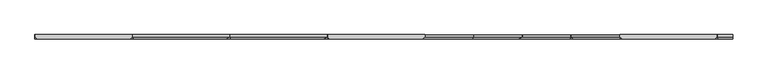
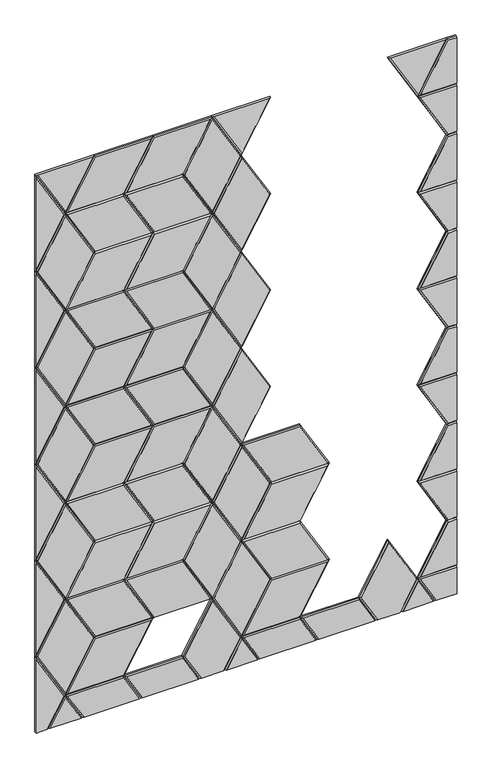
"""IFC4 building model written with IfcOpenShell, lengths in millimetres: proxy geometry, Wall_Cissu 9.3dm."""

from ifc_helpers import new_model, si_unit, origin, place, context, project, spatial, faceted_brep, source, transform, mapped, element, save


def generic_models_b4bbd041(model_context):
    return source(origin(), model_context, "Body", "Brep", [
        faceted_brep([(13658.7518258, 0.0, 380.3250218), (13798.4518258, 0.0, 138.357524), (13798.4518258, 6.0, 138.357524), (13658.7518258, 6.0, 380.3250218), (13658.7518258, -6.0, 368.3250218), (13791.5236226, -6.0, 138.357524), (13658.7518258, 6.0, 0.0), (13718.5710721, 6.0, 0.0), (13718.5710721, 0.0, 0.0), (13658.7518258, -6.0, 0.0), (13711.6428689, -6.0, 0.0)], [[[0, 1, 2, 3]], [[0, 4, 5, 1]], [[6, 3, 2, 7]], [[8, 7, 2, 1]], [[9, 10, 5, 4]], [[10, 8, 1, 5]], [[9, 6, 7, 8, 10]], [[0, 3, 6, 9, 4]]]),
        faceted_brep([(13658.7518258, 6.0, 2316.0650044), (13658.7518258, 6.0, 2800.0), (13798.4518258, 6.0, 2558.0325022), (13658.7518258, 0.0, 2800.0), (13798.4518258, 0.0, 2558.0325022), (13658.7518258, 0.0, 2316.0650044), (13658.7518258, -6.0, 2328.0650044), (13791.5236226, -6.0, 2558.0325022), (13658.7518258, -6.0, 2788.0)], [[[0, 1, 2]], [[3, 4, 2, 1]], [[4, 5, 0, 2]], [[6, 7, 8]], [[3, 8, 7, 4]], [[4, 7, 6, 5]], [[0, 5, 6, 8, 3, 1]]]),
        faceted_brep([(13658.7518258, 6.0, 1832.1300087), (13658.7518258, 6.0, 2316.0650044), (13798.4518258, 6.0, 2074.0975065), (13658.7518258, 0.0, 2316.0650044), (13798.4518258, 0.0, 2074.0975065), (13658.7518258, 0.0, 1832.1300087), (13658.7518258, -6.0, 1844.1300087), (13791.5236226, -6.0, 2074.0975065), (13658.7518258, -6.0, 2304.0650044)], [[[0, 1, 2]], [[3, 4, 2, 1]], [[4, 5, 0, 2]], [[6, 7, 8]], [[3, 8, 7, 4]], [[4, 7, 6, 5]], [[0, 5, 6, 8, 3, 1]]]),
        faceted_brep([(13658.7518258, 6.0, 1348.1950131), (13658.7518258, 6.0, 1832.1300087), (13798.4518258, 6.0, 1590.1625109), (13658.7518258, 0.0, 1832.1300087), (13798.4518258, 0.0, 1590.1625109), (13658.7518258, 0.0, 1348.1950131), (13658.7518258, -6.0, 1360.1950131), (13791.5236226, -6.0, 1590.1625109), (13658.7518258, -6.0, 1820.1300087)], [[[0, 1, 2]], [[3, 4, 2, 1]], [[4, 5, 0, 2]], [[6, 7, 8]], [[3, 8, 7, 4]], [[4, 7, 6, 5]], [[0, 5, 6, 8, 3, 1]]]),
        faceted_brep([(13658.7518258, 6.0, 864.2600175), (13658.7518258, 6.0, 1348.1950131), (13798.4518258, 6.0, 1106.2275153), (13658.7518258, 0.0, 1348.1950131), (13798.4518258, 0.0, 1106.2275153), (13658.7518258, 0.0, 864.2600175), (13658.7518258, -6.0, 876.2600175), (13791.5236226, -6.0, 1106.2275153), (13658.7518258, -6.0, 1336.1950131)], [[[0, 1, 2]], [[3, 4, 2, 1]], [[4, 5, 0, 2]], [[6, 7, 8]], [[3, 8, 7, 4]], [[4, 7, 6, 5]], [[0, 5, 6, 8, 3, 1]]]),
        faceted_brep([(13658.7518258, 6.0, 380.3250218), (13658.7518258, 6.0, 864.2600175), (13798.4518258, 6.0, 622.2925196), (13658.7518258, 0.0, 864.2600175), (13798.4518258, 0.0, 622.2925196), (13658.7518258, 0.0, 380.3250218), (13658.7518258, -6.0, 392.3250218), (13791.5236226, -6.0, 622.2925196), (13658.7518258, -6.0, 852.2600175)], [[[0, 1, 2]], [[3, 4, 2, 1]], [[4, 5, 0, 2]], [[6, 7, 8]], [[3, 8, 7, 4]], [[4, 7, 6, 5]], [[0, 5, 6, 8, 3, 1]]]),
        faceted_brep([(15658.7518258, 0.0, 138.357524), (15658.7518258, 6.0, 138.357524), (15474.8518258, 6.0, 138.357524), (15474.8518258, 0.0, 138.357524), (15658.7518258, -6.0, 132.357524), (15485.2441307, -6.0, 132.357524), (15658.7518258, 6.0, 0.0), (15554.7325795, 6.0, 0.0), (15554.7325795, 0.0, 0.0), (15658.7518258, -6.0, 0.0), (15561.6607828, -6.0, 0.0)], [[[0, 1, 2, 3]], [[4, 0, 3, 5]], [[6, 7, 2, 1]], [[8, 3, 2, 7]], [[9, 4, 5, 10]], [[10, 5, 3, 8]], [[6, 9, 10, 8, 7]], [[4, 9, 6, 1, 0]]]),
        faceted_brep([(15658.7518258, 6.0, 2800.0), (15658.7518258, 6.0, 2558.0325022), (15474.8518258, 6.0, 2558.0325022), (15614.5518258, 6.0, 2800.0), (15658.7518258, 0.0, 2558.0325022), (15474.8518258, 0.0, 2558.0325022), (15614.5518258, 0.0, 2800.0), (15658.7518258, 0.0, 2800.0), (15658.7518258, -6.0, 2794.0), (15618.0159274, -6.0, 2794.0), (15485.2441307, -6.0, 2564.0325022), (15658.7518258, -6.0, 2564.0325022)], [[[0, 1, 2, 3]], [[4, 5, 2, 1]], [[5, 6, 3, 2]], [[0, 3, 6, 7]], [[8, 9, 10, 11]], [[11, 10, 5, 4]], [[5, 10, 9, 6]], [[7, 6, 9, 8]], [[8, 11, 4, 1, 0, 7]]]),
        faceted_brep([(15658.7518258, 6.0, 1348.1950131), (15614.5518258, 6.0, 1348.1950131), (15474.8518258, 6.0, 1590.1625109), (15658.7518258, 6.0, 1590.1625109), (15658.7518258, 0.0, 1348.1950131), (15614.5518258, 0.0, 1348.1950131), (15658.7518258, 0.0, 1590.1625109), (15474.8518258, 0.0, 1590.1625109), (15658.7518258, -6.0, 1354.1950131), (15658.7518258, -6.0, 1584.1625109), (15485.2441307, -6.0, 1584.1625109), (15618.0159274, -6.0, 1354.1950131)], [[[0, 1, 2, 3]], [[0, 4, 5, 1]], [[6, 3, 2, 7]], [[7, 2, 1, 5]], [[8, 9, 10, 11]], [[4, 8, 11, 5]], [[9, 6, 7, 10]], [[7, 5, 11, 10]], [[0, 3, 6, 9, 8, 4]]]),
        faceted_brep([(15658.7518258, 6.0, 2316.0650044), (15658.7518258, 6.0, 2074.0975065), (15474.8518258, 6.0, 2074.0975065), (15614.5518258, 6.0, 2316.0650044), (15658.7518258, 0.0, 2074.0975065), (15474.8518258, 0.0, 2074.0975065), (15614.5518258, 0.0, 2316.0650044), (15658.7518258, 0.0, 2316.0650044), (15658.7518258, -6.0, 2310.0650044), (15618.0159274, -6.0, 2310.0650044), (15485.2441307, -6.0, 2080.0975065), (15658.7518258, -6.0, 2080.0975065)], [[[0, 1, 2, 3]], [[4, 5, 2, 1]], [[5, 6, 3, 2]], [[0, 3, 6, 7]], [[8, 9, 10, 11]], [[11, 10, 5, 4]], [[5, 10, 9, 6]], [[7, 6, 9, 8]], [[0, 7, 8, 11, 4, 1]]]),
        faceted_brep([(15658.7518258, 6.0, 2316.0650044), (15614.5518258, 6.0, 2316.0650044), (15474.8518258, 6.0, 2558.0325022), (15658.7518258, 6.0, 2558.0325022), (15658.7518258, 0.0, 2558.0325022), (15474.8518258, 0.0, 2558.0325022), (15614.5518258, 0.0, 2316.0650044), (15658.7518258, 0.0, 2316.0650044), (15658.7518258, -6.0, 2322.0650044), (15658.7518258, -6.0, 2552.0325022), (15485.2441307, -6.0, 2552.0325022), (15618.0159274, -6.0, 2322.0650044)], [[[0, 1, 2, 3]], [[4, 3, 2, 5]], [[5, 2, 1, 6]], [[0, 7, 6, 1]], [[8, 9, 10, 11]], [[9, 4, 5, 10]], [[5, 6, 11, 10]], [[7, 8, 11, 6]], [[0, 3, 4, 9, 8, 7]]]),
        faceted_brep([(15658.7518258, 6.0, 1832.1300087), (15658.7518258, 6.0, 1590.1625109), (15474.8518258, 6.0, 1590.1625109), (15614.5518258, 6.0, 1832.1300087), (15658.7518258, 0.0, 1590.1625109), (15474.8518258, 0.0, 1590.1625109), (15614.5518258, 0.0, 1832.1300087), (15658.7518258, 0.0, 1832.1300087), (15658.7518258, -6.0, 1826.1300087), (15618.0159274, -6.0, 1826.1300087), (15485.2441307, -6.0, 1596.1625109), (15658.7518258, -6.0, 1596.1625109)], [[[0, 1, 2, 3]], [[4, 5, 2, 1]], [[5, 6, 3, 2]], [[0, 3, 6, 7]], [[8, 9, 10, 11]], [[11, 10, 5, 4]], [[5, 10, 9, 6]], [[7, 6, 9, 8]], [[0, 7, 8, 11, 4, 1]]]),
        faceted_brep([(15658.7518258, 6.0, 1832.1300087), (15614.5518258, 6.0, 1832.1300087), (15474.8518258, 6.0, 2074.0975065), (15658.7518258, 6.0, 2074.0975065), (15658.7518258, 0.0, 2074.0975065), (15474.8518258, 0.0, 2074.0975065), (15614.5518258, 0.0, 1832.1300087), (15658.7518258, 0.0, 1832.1300087), (15658.7518258, -6.0, 1838.1300087), (15658.7518258, -6.0, 2068.0975065), (15485.2441307, -6.0, 2068.0975065), (15618.0159274, -6.0, 1838.1300087)], [[[0, 1, 2, 3]], [[4, 3, 2, 5]], [[5, 2, 1, 6]], [[0, 7, 6, 1]], [[8, 9, 10, 11]], [[9, 4, 5, 10]], [[5, 6, 11, 10]], [[7, 8, 11, 6]], [[0, 3, 4, 9, 8, 7]]]),
        faceted_brep([(15658.7518258, 6.0, 1348.1950131), (15658.7518258, 6.0, 1106.2275153), (15474.8518258, 6.0, 1106.2275153), (15614.5518258, 6.0, 1348.1950131), (15658.7518258, 0.0, 1106.2275153), (15474.8518258, 0.0, 1106.2275153), (15614.5518258, 0.0, 1348.1950131), (15658.7518258, 0.0, 1348.1950131), (15658.7518258, -6.0, 1342.1950131), (15618.0159274, -6.0, 1342.1950131), (15485.2441307, -6.0, 1112.2275153), (15658.7518258, -6.0, 1112.2275153)], [[[0, 1, 2, 3]], [[4, 5, 2, 1]], [[5, 6, 3, 2]], [[0, 3, 6, 7]], [[8, 9, 10, 11]], [[11, 10, 5, 4]], [[5, 10, 9, 6]], [[7, 6, 9, 8]], [[0, 7, 8, 11, 4, 1]]]),
        faceted_brep([(15658.7518258, 6.0, 864.2600175), (15658.7518258, 6.0, 622.2925196), (15474.8518258, 6.0, 622.2925196), (15614.5518258, 6.0, 864.2600175), (15658.7518258, 0.0, 622.2925196), (15474.8518258, 0.0, 622.2925196), (15614.5518258, 0.0, 864.2600175), (15658.7518258, 0.0, 864.2600175), (15658.7518258, -6.0, 858.2600175), (15618.0159274, -6.0, 858.2600175), (15485.2441307, -6.0, 628.2925196), (15658.7518258, -6.0, 628.2925196)], [[[0, 1, 2, 3]], [[4, 5, 2, 1]], [[5, 6, 3, 2]], [[0, 3, 6, 7]], [[8, 9, 10, 11]], [[11, 10, 5, 4]], [[5, 10, 9, 6]], [[7, 6, 9, 8]], [[0, 7, 8, 11, 4, 1]]]),
        faceted_brep([(15658.7518258, 6.0, 380.3250218), (15658.7518258, 6.0, 138.357524), (15474.8518258, 6.0, 138.357524), (15614.5518258, 6.0, 380.3250218), (15658.7518258, 0.0, 138.357524), (15474.8518258, 0.0, 138.357524), (15614.5518258, 0.0, 380.3250218), (15658.7518258, 0.0, 380.3250218), (15658.7518258, -6.0, 374.3250218), (15618.0159274, -6.0, 374.3250218), (15485.2441307, -6.0, 144.357524), (15658.7518258, -6.0, 144.357524)], [[[0, 1, 2, 3]], [[4, 5, 2, 1]], [[5, 6, 3, 2]], [[0, 3, 6, 7]], [[8, 9, 10, 11]], [[11, 10, 5, 4]], [[5, 10, 9, 6]], [[7, 6, 9, 8]], [[0, 7, 8, 11, 4, 1]]]),
        faceted_brep([(15658.7518258, 6.0, 380.3250218), (15614.5518258, 6.0, 380.3250218), (15474.8518258, 6.0, 622.2925196), (15658.7518258, 6.0, 622.2925196), (15658.7518258, 0.0, 622.2925196), (15474.8518258, 0.0, 622.2925196), (15614.5518258, 0.0, 380.3250218), (15658.7518258, 0.0, 380.3250218), (15658.7518258, -6.0, 386.3250218), (15658.7518258, -6.0, 616.2925196), (15485.2441307, -6.0, 616.2925196), (15618.0159274, -6.0, 386.3250218)], [[[0, 1, 2, 3]], [[4, 3, 2, 5]], [[5, 2, 1, 6]], [[0, 7, 6, 1]], [[8, 9, 10, 11]], [[9, 4, 5, 10]], [[5, 6, 11, 10]], [[7, 8, 11, 6]], [[0, 3, 4, 9, 8, 7]]]),
        faceted_brep([(15658.7518258, 6.0, 864.2600175), (15614.5518258, 6.0, 864.2600175), (15474.8518258, 6.0, 1106.2275153), (15658.7518258, 6.0, 1106.2275153), (15658.7518258, 0.0, 1106.2275153), (15474.8518258, 0.0, 1106.2275153), (15614.5518258, 0.0, 864.2600175), (15658.7518258, 0.0, 864.2600175), (15658.7518258, -6.0, 870.2600175), (15658.7518258, -6.0, 1100.2275153), (15485.2441307, -6.0, 1100.2275153), (15618.0159274, -6.0, 870.2600175)], [[[0, 1, 2, 3]], [[4, 3, 2, 5]], [[5, 2, 1, 6]], [[0, 7, 6, 1]], [[8, 9, 10, 11]], [[9, 4, 5, 10]], [[5, 6, 11, 10]], [[7, 8, 11, 6]], [[0, 3, 4, 9, 8, 7]]]),
        faceted_brep([(13718.5710721, 6.0, 0.0), (13798.4518258, 6.0, 138.357524), (13878.3325795, 6.0, 0.0), (13718.5710721, 0.0, 0.0), (13798.4518258, 0.0, 138.357524), (13878.3325795, 0.0, 0.0), (13725.4992753, -6.0, 0.0), (13871.4043763, -6.0, 0.0), (13798.4518258, -6.0, 126.357524)], [[[0, 1, 2]], [[0, 3, 4, 1]], [[5, 2, 1, 4]], [[6, 7, 8]], [[3, 6, 8, 4]], [[7, 5, 4, 8]], [[0, 2, 5, 7, 6, 3]]]),
        faceted_brep([(14077.8518258, 0.0, 138.357524), (14077.8518258, 6.0, 138.357524), (13798.4518258, 6.0, 138.357524), (13798.4518258, 0.0, 138.357524), (13808.8441307, -6.0, 132.357524), (14074.3877242, -6.0, 132.357524), (14157.7325795, 6.0, 0.0), (13878.3325795, 6.0, 0.0), (13878.3325795, 0.0, 0.0), (14157.7325795, 0.0, 0.0), (14150.8043763, -6.0, 0.0), (13885.2607828, -6.0, 0.0)], [[[0, 1, 2, 3]], [[0, 3, 4, 5]], [[6, 7, 2, 1]], [[8, 3, 2, 7]], [[6, 1, 0, 9]], [[10, 5, 4, 11]], [[11, 4, 3, 8]], [[9, 0, 5, 10]], [[6, 9, 10, 11, 8, 7]]]),
        faceted_brep([(14357.2518258, 0.0, 138.357524), (14496.9518258, 0.0, 380.3250218), (14496.9518258, 6.0, 380.3250218), (14357.2518258, 6.0, 138.357524), (14636.6518258, 0.0, 138.357524), (14636.6518258, 6.0, 138.357524), (14364.180029, -6.0, 138.357524), (14496.9518258, -6.0, 368.3250218), (14629.7236226, -6.0, 138.357524), (14437.1325795, 6.0, 0.0), (14556.7710721, 6.0, 0.0), (14556.7710721, 0.0, 0.0), (14437.1325795, 0.0, 0.0), (14444.0607828, -6.0, 0.0), (14549.8428689, -6.0, 0.0)], [[[0, 1, 2, 3]], [[1, 4, 5, 2]], [[0, 6, 7, 1]], [[1, 7, 8, 4]], [[9, 3, 2, 5, 10]], [[11, 10, 5, 4]], [[9, 12, 0, 3]], [[13, 14, 8, 7, 6]], [[14, 11, 4, 8]], [[12, 13, 6, 0]], [[9, 10, 11, 14, 13, 12]]]),
        faceted_brep([(14357.2518258, 0.0, 138.357524), (14357.2518258, 6.0, 138.357524), (14077.8518258, 6.0, 138.357524), (14077.8518258, 0.0, 138.357524), (14088.2441307, -6.0, 132.357524), (14353.7877242, -6.0, 132.357524), (14437.1325795, 6.0, 0.0), (14157.7325795, 6.0, 0.0), (14437.1325795, 0.0, 0.0), (14157.7325795, 0.0, 0.0), (14430.2043763, -6.0, 0.0), (14164.6607828, -6.0, 0.0)], [[[0, 1, 2, 3]], [[0, 3, 4, 5]], [[6, 7, 2, 1]], [[6, 1, 0, 8]], [[9, 3, 2, 7]], [[10, 5, 4, 11]], [[8, 0, 5, 10]], [[11, 4, 3, 9]], [[6, 8, 10, 11, 9, 7]]]),
        faceted_brep([(14556.7710721, 6.0, 0.0), (14636.6518258, 6.0, 138.357524), (14716.5325795, 6.0, 0.0), (14556.7710721, 0.0, 0.0), (14636.6518258, 0.0, 138.357524), (14716.5325795, 0.0, 0.0), (14563.6992753, -6.0, 0.0), (14709.6043763, -6.0, 0.0), (14636.6518258, -6.0, 126.357524)], [[[0, 1, 2]], [[0, 3, 4, 1]], [[5, 2, 1, 4]], [[6, 7, 8]], [[3, 6, 8, 4]], [[7, 5, 4, 8]], [[0, 2, 5, 7, 6, 3]]]),
        faceted_brep([(14916.0518258, 0.0, 138.357524), (14916.0518258, 6.0, 138.357524), (14636.6518258, 6.0, 138.357524), (14636.6518258, 0.0, 138.357524), (14647.0441307, -6.0, 132.357524), (14912.5877242, -6.0, 132.357524), (14995.9325795, 6.0, 0.0), (14716.5325795, 6.0, 0.0), (14716.5325795, 0.0, 0.0), (14995.9325795, 0.0, 0.0), (14989.0043763, -6.0, 0.0), (14723.4607828, -6.0, 0.0)], [[[0, 1, 2, 3]], [[0, 3, 4, 5]], [[6, 7, 2, 1]], [[8, 3, 2, 7]], [[6, 1, 0, 9]], [[10, 5, 4, 11]], [[11, 4, 3, 8]], [[9, 0, 5, 10]], [[6, 9, 10, 11, 8, 7]]]),
        faceted_brep([(15195.4518258, 0.0, 138.357524), (15335.1518258, 0.0, 380.3250218), (15335.1518258, 6.0, 380.3250218), (15195.4518258, 6.0, 138.357524), (15474.8518258, 0.0, 138.357524), (15474.8518258, 6.0, 138.357524), (15202.380029, -6.0, 138.357524), (15335.1518258, -6.0, 368.3250218), (15467.9236226, -6.0, 138.357524), (15275.3325795, 6.0, 0.0), (15394.9710721, 6.0, 0.0), (15394.9710721, 0.0, 0.0), (15275.3325795, 0.0, 0.0), (15282.2607828, -6.0, 0.0), (15388.0428689, -6.0, 0.0)], [[[0, 1, 2, 3]], [[1, 4, 5, 2]], [[0, 6, 7, 1]], [[1, 7, 8, 4]], [[9, 3, 2, 5, 10]], [[11, 10, 5, 4]], [[9, 12, 0, 3]], [[13, 14, 8, 7, 6]], [[14, 11, 4, 8]], [[12, 13, 6, 0]], [[9, 10, 11, 14, 13, 12]]]),
        faceted_brep([(15195.4518258, 0.0, 138.357524), (15195.4518258, 6.0, 138.357524), (14916.0518258, 6.0, 138.357524), (14916.0518258, 0.0, 138.357524), (14926.4441307, -6.0, 132.357524), (15191.9877242, -6.0, 132.357524), (15275.3325795, 6.0, 0.0), (14995.9325795, 6.0, 0.0), (15275.3325795, 0.0, 0.0), (14995.9325795, 0.0, 0.0), (15268.4043763, -6.0, 0.0), (15002.8607828, -6.0, 0.0)], [[[0, 1, 2, 3]], [[0, 3, 4, 5]], [[6, 7, 2, 1]], [[6, 1, 0, 8]], [[9, 3, 2, 7]], [[10, 5, 4, 11]], [[8, 0, 5, 10]], [[11, 4, 3, 9]], [[6, 8, 10, 11, 9, 7]]]),
        faceted_brep([(15394.9710721, 6.0, 0.0), (15474.8518258, 6.0, 138.357524), (15554.7325795, 6.0, 0.0), (15394.9710721, 0.0, 0.0), (15474.8518258, 0.0, 138.357524), (15554.7325795, 0.0, 0.0), (15401.8992753, -6.0, 0.0), (15547.8043763, -6.0, 0.0), (15474.8518258, -6.0, 126.357524)], [[[0, 1, 2]], [[0, 3, 4, 1]], [[5, 2, 1, 4]], [[6, 7, 8]], [[3, 6, 8, 4]], [[7, 5, 4, 8]], [[0, 2, 5, 7, 6, 3]]]),
        faceted_brep([(13938.1518258, 0.0, 2800.0), (13798.4518258, 0.0, 2558.0325022), (13798.4518258, 6.0, 2558.0325022), (13938.1518258, 6.0, 2800.0), (13658.7518258, 0.0, 2800.0), (13658.7518258, 6.0, 2800.0), (13931.2236226, -6.0, 2800.0), (13798.4518258, -6.0, 2570.0325022), (13665.680029, -6.0, 2800.0)], [[[0, 1, 2, 3]], [[1, 4, 5, 2]], [[0, 6, 7, 1]], [[1, 7, 8, 4]], [[3, 2, 5]], [[6, 8, 7]], [[3, 5, 4, 8, 6, 0]]]),
        faceted_brep([(14776.3518258, 0.0, 2800.0), (14636.6518258, 0.0, 2558.0325022), (14636.6518258, 6.0, 2558.0325022), (14776.3518258, 6.0, 2800.0), (14496.9518258, 0.0, 2800.0), (14496.9518258, 6.0, 2800.0), (14769.4236226, -6.0, 2800.0), (14636.6518258, -6.0, 2570.0325022), (14503.880029, -6.0, 2800.0)], [[[0, 1, 2, 3]], [[1, 4, 5, 2]], [[0, 6, 7, 1]], [[1, 7, 8, 4]], [[3, 2, 5]], [[6, 8, 7]], [[3, 5, 4, 8, 6, 0]]]),
        faceted_brep([(15614.5518258, 0.0, 2800.0), (15474.8518258, 0.0, 2558.0325022), (15474.8518258, 6.0, 2558.0325022), (15614.5518258, 6.0, 2800.0), (15335.1518258, 0.0, 2800.0), (15335.1518258, 6.0, 2800.0), (15607.6236226, -6.0, 2800.0), (15474.8518258, -6.0, 2570.0325022), (15342.080029, -6.0, 2800.0)], [[[0, 1, 2, 3]], [[1, 4, 5, 2]], [[0, 6, 7, 1]], [[1, 7, 8, 4]], [[3, 2, 5]], [[6, 8, 7]], [[3, 5, 4, 8, 6, 0]]]),
        faceted_brep([(13938.1518258, 6.0, 2316.0650044), (13798.4518258, 6.0, 2074.0975065), (13658.7518258, 6.0, 2316.0650044), (13798.4518258, 6.0, 2558.0325022), (13938.1518258, 0.0, 2316.0650044), (13798.4518258, 0.0, 2074.0975065), (13658.7518258, 0.0, 2316.0650044), (13798.4518258, 0.0, 2558.0325022), (13665.680029, -6.0, 2316.0650044), (13798.4518258, -6.0, 2086.0975065), (13931.2236226, -6.0, 2316.0650044), (13798.4518258, -6.0, 2546.0325022)], [[[0, 1, 2, 3]], [[4, 5, 1, 0]], [[5, 6, 2, 1]], [[6, 7, 3, 2]], [[7, 4, 0, 3]], [[8, 9, 10, 11]], [[4, 10, 9, 5]], [[5, 9, 8, 6]], [[6, 8, 11, 7]], [[7, 11, 10, 4]]]),
        faceted_brep([(13938.1518258, 6.0, 1832.1300087), (13798.4518258, 6.0, 1590.1625109), (13658.7518258, 6.0, 1832.1300087), (13798.4518258, 6.0, 2074.0975065), (13938.1518258, 0.0, 1832.1300087), (13798.4518258, 0.0, 1590.1625109), (13658.7518258, 0.0, 1832.1300087), (13798.4518258, 0.0, 2074.0975065), (13665.680029, -6.0, 1832.1300087), (13798.4518258, -6.0, 1602.1625109), (13931.2236226, -6.0, 1832.1300087), (13798.4518258, -6.0, 2062.0975065)], [[[0, 1, 2, 3]], [[4, 5, 1, 0]], [[5, 6, 2, 1]], [[6, 7, 3, 2]], [[7, 4, 0, 3]], [[8, 9, 10, 11]], [[4, 10, 9, 5]], [[5, 9, 8, 6]], [[6, 8, 11, 7]], [[7, 11, 10, 4]]]),
        faceted_brep([(13938.1518258, 6.0, 1348.1950131), (13798.4518258, 6.0, 1106.2275153), (13658.7518258, 6.0, 1348.1950131), (13798.4518258, 6.0, 1590.1625109), (13938.1518258, 0.0, 1348.1950131), (13798.4518258, 0.0, 1106.2275153), (13658.7518258, 0.0, 1348.1950131), (13798.4518258, 0.0, 1590.1625109), (13665.680029, -6.0, 1348.1950131), (13798.4518258, -6.0, 1118.2275153), (13931.2236226, -6.0, 1348.1950131), (13798.4518258, -6.0, 1578.1625109)], [[[0, 1, 2, 3]], [[4, 5, 1, 0]], [[5, 6, 2, 1]], [[6, 7, 3, 2]], [[7, 4, 0, 3]], [[8, 9, 10, 11]], [[4, 10, 9, 5]], [[5, 9, 8, 6]], [[6, 8, 11, 7]], [[7, 11, 10, 4]]]),
        faceted_brep([(13938.1518258, 6.0, 864.2600175), (13798.4518258, 6.0, 622.2925196), (13658.7518258, 6.0, 864.2600175), (13798.4518258, 6.0, 1106.2275153), (13938.1518258, 0.0, 864.2600175), (13798.4518258, 0.0, 622.2925196), (13658.7518258, 0.0, 864.2600175), (13798.4518258, 0.0, 1106.2275153), (13665.680029, -6.0, 864.2600175), (13798.4518258, -6.0, 634.2925196), (13931.2236226, -6.0, 864.2600175), (13798.4518258, -6.0, 1094.2275153)], [[[0, 1, 2, 3]], [[4, 5, 1, 0]], [[5, 6, 2, 1]], [[6, 7, 3, 2]], [[7, 4, 0, 3]], [[8, 9, 10, 11]], [[4, 10, 9, 5]], [[5, 9, 8, 6]], [[6, 8, 11, 7]], [[7, 11, 10, 4]]]),
        faceted_brep([(13938.1518258, 6.0, 380.3250218), (13798.4518258, 6.0, 138.357524), (13658.7518258, 6.0, 380.3250218), (13798.4518258, 6.0, 622.2925196), (13938.1518258, 0.0, 380.3250218), (13798.4518258, 0.0, 138.357524), (13658.7518258, 0.0, 380.3250218), (13798.4518258, 0.0, 622.2925196), (13665.680029, -6.0, 380.3250218), (13798.4518258, -6.0, 150.357524), (13931.2236226, -6.0, 380.3250218), (13798.4518258, -6.0, 610.2925196)], [[[0, 1, 2, 3]], [[4, 5, 1, 0]], [[5, 6, 2, 1]], [[6, 7, 3, 2]], [[7, 4, 0, 3]], [[8, 9, 10, 11]], [[4, 10, 9, 5]], [[5, 9, 8, 6]], [[6, 8, 11, 7]], [[7, 11, 10, 4]]]),
        faceted_brep([(14077.8518258, 6.0, 1106.2275153), (14217.5518258, 6.0, 864.2600175), (13938.1518258, 6.0, 864.2600175), (13798.4518258, 6.0, 1106.2275153), (14077.8518258, 0.0, 1106.2275153), (13798.4518258, 0.0, 1106.2275153), (13938.1518258, 0.0, 864.2600175), (14217.5518258, 0.0, 864.2600175), (13941.6159274, -6.0, 870.2600175), (14207.159521, -6.0, 870.2600175), (14074.3877242, -6.0, 1100.2275153), (13808.8441307, -6.0, 1100.2275153)], [[[0, 1, 2, 3]], [[4, 0, 3, 5]], [[5, 3, 2, 6]], [[6, 2, 1, 7]], [[7, 1, 0, 4]], [[8, 9, 10, 11]], [[4, 5, 11, 10]], [[5, 6, 8, 11]], [[6, 7, 9, 8]], [[7, 4, 10, 9]]]),
        faceted_brep([(14077.8518258, 6.0, 622.2925196), (14217.5518258, 6.0, 380.3250218), (13938.1518258, 6.0, 380.3250218), (13798.4518258, 6.0, 622.2925196), (14077.8518258, 0.0, 622.2925196), (13798.4518258, 0.0, 622.2925196), (13938.1518258, 0.0, 380.3250218), (14217.5518258, 0.0, 380.3250218), (13941.6159274, -6.0, 386.3250218), (14207.159521, -6.0, 386.3250218), (14074.3877242, -6.0, 616.2925196), (13808.8441307, -6.0, 616.2925196)], [[[0, 1, 2, 3]], [[4, 0, 3, 5]], [[5, 3, 2, 6]], [[6, 2, 1, 7]], [[7, 1, 0, 4]], [[8, 9, 10, 11]], [[4, 5, 11, 10]], [[5, 6, 8, 11]], [[6, 7, 9, 8]], [[7, 4, 10, 9]]]),
        faceted_brep([(14077.8518258, 6.0, 138.357524), (13798.4518258, 6.0, 138.357524), (13938.1518258, 6.0, 380.3250218), (14217.5518258, 6.0, 380.3250218), (14077.8518258, 0.0, 138.357524), (13798.4518258, 0.0, 138.357524), (13938.1518258, 0.0, 380.3250218), (14217.5518258, 0.0, 380.3250218), (13941.6159274, -6.0, 374.3250218), (13808.8441307, -6.0, 144.357524), (14074.3877242, -6.0, 144.357524), (14207.159521, -6.0, 374.3250218)], [[[0, 1, 2, 3]], [[4, 5, 1, 0]], [[5, 6, 2, 1]], [[6, 7, 3, 2]], [[7, 4, 0, 3]], [[8, 9, 10, 11]], [[4, 10, 9, 5]], [[5, 9, 8, 6]], [[6, 8, 11, 7]], [[7, 11, 10, 4]]]),
        faceted_brep([(14077.8518258, 6.0, 622.2925196), (13798.4518258, 6.0, 622.2925196), (13938.1518258, 6.0, 864.2600175), (14217.5518258, 6.0, 864.2600175), (14077.8518258, 0.0, 622.2925196), (13798.4518258, 0.0, 622.2925196), (13938.1518258, 0.0, 864.2600175), (14217.5518258, 0.0, 864.2600175), (13941.6159274, -6.0, 858.2600175), (13808.8441307, -6.0, 628.2925196), (14074.3877242, -6.0, 628.2925196), (14207.159521, -6.0, 858.2600175)], [[[0, 1, 2, 3]], [[4, 5, 1, 0]], [[5, 6, 2, 1]], [[6, 7, 3, 2]], [[7, 4, 0, 3]], [[8, 9, 10, 11]], [[4, 10, 9, 5]], [[5, 9, 8, 6]], [[6, 8, 11, 7]], [[7, 11, 10, 4]]]),
        faceted_brep([(14077.8518258, 6.0, 1106.2275153), (13798.4518258, 6.0, 1106.2275153), (13938.1518258, 6.0, 1348.1950131), (14217.5518258, 6.0, 1348.1950131), (14077.8518258, 0.0, 1106.2275153), (13798.4518258, 0.0, 1106.2275153), (13938.1518258, 0.0, 1348.1950131), (14217.5518258, 0.0, 1348.1950131), (13941.6159274, -6.0, 1342.1950131), (13808.8441307, -6.0, 1112.2275153), (14074.3877242, -6.0, 1112.2275153), (14207.159521, -6.0, 1342.1950131)], [[[0, 1, 2, 3]], [[4, 5, 1, 0]], [[5, 6, 2, 1]], [[6, 7, 3, 2]], [[7, 4, 0, 3]], [[8, 9, 10, 11]], [[4, 10, 9, 5]], [[5, 9, 8, 6]], [[6, 8, 11, 7]], [[7, 11, 10, 4]]]),
        faceted_brep([(14077.8518258, 6.0, 2074.0975065), (14217.5518258, 6.0, 1832.1300087), (13938.1518258, 6.0, 1832.1300087), (13798.4518258, 6.0, 2074.0975065), (14077.8518258, 0.0, 2074.0975065), (13798.4518258, 0.0, 2074.0975065), (13938.1518258, 0.0, 1832.1300087), (14217.5518258, 0.0, 1832.1300087), (13941.6159274, -6.0, 1838.1300087), (14207.159521, -6.0, 1838.1300087), (14074.3877242, -6.0, 2068.0975065), (13808.8441307, -6.0, 2068.0975065)], [[[0, 1, 2, 3]], [[4, 0, 3, 5]], [[5, 3, 2, 6]], [[6, 2, 1, 7]], [[7, 1, 0, 4]], [[8, 9, 10, 11]], [[4, 5, 11, 10]], [[5, 6, 8, 11]], [[6, 7, 9, 8]], [[7, 4, 10, 9]]]),
        faceted_brep([(14077.8518258, 6.0, 1590.1625109), (13798.4518258, 6.0, 1590.1625109), (13938.1518258, 6.0, 1832.1300087), (14217.5518258, 6.0, 1832.1300087), (14077.8518258, 0.0, 1590.1625109), (13798.4518258, 0.0, 1590.1625109), (13938.1518258, 0.0, 1832.1300087), (14217.5518258, 0.0, 1832.1300087), (13941.6159274, -6.0, 1826.1300087), (13808.8441307, -6.0, 1596.1625109), (14074.3877242, -6.0, 1596.1625109), (14207.159521, -6.0, 1826.1300087)], [[[0, 1, 2, 3]], [[4, 5, 1, 0]], [[5, 6, 2, 1]], [[6, 7, 3, 2]], [[7, 4, 0, 3]], [[8, 9, 10, 11]], [[4, 10, 9, 5]], [[5, 9, 8, 6]], [[6, 8, 11, 7]], [[7, 11, 10, 4]]]),
        faceted_brep([(14077.8518258, 6.0, 2558.0325022), (14217.5518258, 6.0, 2316.0650044), (13938.1518258, 6.0, 2316.0650044), (13798.4518258, 6.0, 2558.0325022), (14077.8518258, 0.0, 2558.0325022), (13798.4518258, 0.0, 2558.0325022), (13938.1518258, 0.0, 2316.0650044), (14217.5518258, 0.0, 2316.0650044), (13941.6159274, -6.0, 2322.0650044), (14207.159521, -6.0, 2322.0650044), (14074.3877242, -6.0, 2552.0325022), (13808.8441307, -6.0, 2552.0325022)], [[[0, 1, 2, 3]], [[4, 0, 3, 5]], [[5, 3, 2, 6]], [[6, 2, 1, 7]], [[7, 1, 0, 4]], [[8, 9, 10, 11]], [[4, 5, 11, 10]], [[5, 6, 8, 11]], [[6, 7, 9, 8]], [[7, 4, 10, 9]]]),
        faceted_brep([(14077.8518258, 6.0, 2074.0975065), (13798.4518258, 6.0, 2074.0975065), (13938.1518258, 6.0, 2316.0650044), (14217.5518258, 6.0, 2316.0650044), (14077.8518258, 0.0, 2074.0975065), (13798.4518258, 0.0, 2074.0975065), (13938.1518258, 0.0, 2316.0650044), (14217.5518258, 0.0, 2316.0650044), (13941.6159274, -6.0, 2310.0650044), (13808.8441307, -6.0, 2080.0975065), (14074.3877242, -6.0, 2080.0975065), (14207.159521, -6.0, 2310.0650044)], [[[0, 1, 2, 3]], [[4, 5, 1, 0]], [[5, 6, 2, 1]], [[6, 7, 3, 2]], [[7, 4, 0, 3]], [[8, 9, 10, 11]], [[4, 10, 9, 5]], [[5, 9, 8, 6]], [[6, 8, 11, 7]], [[7, 11, 10, 4]]]),
        faceted_brep([(13938.1518258, 6.0, 1348.1950131), (13798.4518258, 6.0, 1590.1625109), (14077.8518258, 6.0, 1590.1625109), (14217.5518258, 6.0, 1348.1950131), (13938.1518258, 0.0, 1348.1950131), (14217.5518258, 0.0, 1348.1950131), (14077.8518258, 0.0, 1590.1625109), (13798.4518258, 0.0, 1590.1625109), (14074.3877242, -6.0, 1584.1625109), (13808.8441307, -6.0, 1584.1625109), (13941.6159274, -6.0, 1354.1950131), (14207.159521, -6.0, 1354.1950131)], [[[0, 1, 2, 3]], [[4, 0, 3, 5]], [[5, 3, 2, 6]], [[6, 2, 1, 7]], [[7, 1, 0, 4]], [[8, 9, 10, 11]], [[4, 5, 11, 10]], [[5, 6, 8, 11]], [[6, 7, 9, 8]], [[7, 4, 10, 9]]]),
        faceted_brep([(14077.8518258, 6.0, 2558.0325022), (13798.4518258, 6.0, 2558.0325022), (13938.1518258, 6.0, 2800.0), (14217.5518258, 6.0, 2800.0), (14077.8518258, 0.0, 2558.0325022), (13798.4518258, 0.0, 2558.0325022), (13938.1518258, 0.0, 2800.0), (14217.5518258, 0.0, 2800.0), (13941.6159274, -6.0, 2794.0), (13808.8441307, -6.0, 2564.0325022), (14074.3877242, -6.0, 2564.0325022), (14207.159521, -6.0, 2794.0)], [[[0, 1, 2, 3]], [[4, 5, 1, 0]], [[5, 6, 2, 1]], [[6, 7, 3, 2]], [[7, 4, 0, 3]], [[8, 9, 10, 11]], [[4, 10, 9, 5]], [[5, 9, 8, 6]], [[6, 8, 11, 7]], [[7, 11, 10, 4]]]),
        faceted_brep([(14357.2518258, 6.0, 2558.0325022), (14496.9518258, 6.0, 2800.0), (14636.6518258, 6.0, 2558.0325022), (14496.9518258, 6.0, 2316.0650044), (14357.2518258, 0.0, 2558.0325022), (14496.9518258, 0.0, 2800.0), (14636.6518258, 0.0, 2558.0325022), (14496.9518258, 0.0, 2316.0650044), (14629.7236226, -6.0, 2558.0325022), (14496.9518258, -6.0, 2788.0), (14364.180029, -6.0, 2558.0325022), (14496.9518258, -6.0, 2328.0650044)], [[[0, 1, 2, 3]], [[4, 5, 1, 0]], [[5, 6, 2, 1]], [[6, 7, 3, 2]], [[7, 4, 0, 3]], [[8, 9, 10, 11]], [[4, 10, 9, 5]], [[5, 9, 8, 6]], [[6, 8, 11, 7]], [[7, 11, 10, 4]]]),
        faceted_brep([(14357.2518258, 6.0, 2074.0975065), (14496.9518258, 6.0, 2316.0650044), (14636.6518258, 6.0, 2074.0975065), (14496.9518258, 6.0, 1832.1300087), (14357.2518258, 0.0, 2074.0975065), (14496.9518258, 0.0, 2316.0650044), (14636.6518258, 0.0, 2074.0975065), (14496.9518258, 0.0, 1832.1300087), (14629.7236226, -6.0, 2074.0975065), (14496.9518258, -6.0, 2304.0650044), (14364.180029, -6.0, 2074.0975065), (14496.9518258, -6.0, 1844.1300087)], [[[0, 1, 2, 3]], [[4, 5, 1, 0]], [[5, 6, 2, 1]], [[6, 7, 3, 2]], [[7, 4, 0, 3]], [[8, 9, 10, 11]], [[4, 10, 9, 5]], [[5, 9, 8, 6]], [[6, 8, 11, 7]], [[7, 11, 10, 4]]]),
        faceted_brep([(14357.2518258, 6.0, 1590.1625109), (14496.9518258, 6.0, 1832.1300087), (14636.6518258, 6.0, 1590.1625109), (14496.9518258, 6.0, 1348.1950131), (14357.2518258, 0.0, 1590.1625109), (14496.9518258, 0.0, 1832.1300087), (14636.6518258, 0.0, 1590.1625109), (14496.9518258, 0.0, 1348.1950131), (14629.7236226, -6.0, 1590.1625109), (14496.9518258, -6.0, 1820.1300087), (14364.180029, -6.0, 1590.1625109), (14496.9518258, -6.0, 1360.1950131)], [[[0, 1, 2, 3]], [[4, 5, 1, 0]], [[5, 6, 2, 1]], [[6, 7, 3, 2]], [[7, 4, 0, 3]], [[8, 9, 10, 11]], [[4, 10, 9, 5]], [[5, 9, 8, 6]], [[6, 8, 11, 7]], [[7, 11, 10, 4]]]),
        faceted_brep([(14357.2518258, 6.0, 1106.2275153), (14496.9518258, 6.0, 1348.1950131), (14636.6518258, 6.0, 1106.2275153), (14496.9518258, 6.0, 864.2600175), (14357.2518258, 0.0, 1106.2275153), (14496.9518258, 0.0, 1348.1950131), (14636.6518258, 0.0, 1106.2275153), (14496.9518258, 0.0, 864.2600175), (14629.7236226, -6.0, 1106.2275153), (14496.9518258, -6.0, 1336.1950131), (14364.180029, -6.0, 1106.2275153), (14496.9518258, -6.0, 876.2600175)], [[[0, 1, 2, 3]], [[4, 5, 1, 0]], [[5, 6, 2, 1]], [[6, 7, 3, 2]], [[7, 4, 0, 3]], [[8, 9, 10, 11]], [[4, 10, 9, 5]], [[5, 9, 8, 6]], [[6, 8, 11, 7]], [[7, 11, 10, 4]]]),
        faceted_brep([(14357.2518258, 6.0, 622.2925196), (14496.9518258, 6.0, 864.2600175), (14636.6518258, 6.0, 622.2925196), (14496.9518258, 6.0, 380.3250218), (14357.2518258, 0.0, 622.2925196), (14496.9518258, 0.0, 864.2600175), (14636.6518258, 0.0, 622.2925196), (14496.9518258, 0.0, 380.3250218), (14629.7236226, -6.0, 622.2925196), (14496.9518258, -6.0, 852.2600175), (14364.180029, -6.0, 622.2925196), (14496.9518258, -6.0, 392.3250218)], [[[0, 1, 2, 3]], [[4, 5, 1, 0]], [[5, 6, 2, 1]], [[6, 7, 3, 2]], [[7, 4, 0, 3]], [[8, 9, 10, 11]], [[4, 10, 9, 5]], [[5, 9, 8, 6]], [[6, 8, 11, 7]], [[7, 11, 10, 4]]]),
        faceted_brep([(14217.5518258, 6.0, 864.2600175), (14496.9518258, 6.0, 864.2600175), (14357.2518258, 6.0, 622.2925196), (14077.8518258, 6.0, 622.2925196), (14217.5518258, 0.0, 864.2600175), (14496.9518258, 0.0, 864.2600175), (14357.2518258, 0.0, 622.2925196), (14077.8518258, 0.0, 622.2925196), (14353.7877242, -6.0, 628.2925196), (14486.559521, -6.0, 858.2600175), (14221.0159274, -6.0, 858.2600175), (14088.2441307, -6.0, 628.2925196)], [[[0, 1, 2, 3]], [[4, 5, 1, 0]], [[5, 6, 2, 1]], [[6, 7, 3, 2]], [[7, 4, 0, 3]], [[8, 9, 10, 11]], [[4, 10, 9, 5]], [[5, 9, 8, 6]], [[6, 8, 11, 7]], [[7, 11, 10, 4]]]),
        faceted_brep([(14217.5518258, 6.0, 380.3250218), (14077.8518258, 6.0, 622.2925196), (14357.2518258, 6.0, 622.2925196), (14496.9518258, 6.0, 380.3250218), (14217.5518258, 0.0, 380.3250218), (14496.9518258, 0.0, 380.3250218), (14357.2518258, 0.0, 622.2925196), (14077.8518258, 0.0, 622.2925196), (14353.7877242, -6.0, 616.2925196), (14088.2441307, -6.0, 616.2925196), (14221.0159274, -6.0, 386.3250218), (14486.559521, -6.0, 386.3250218)], [[[0, 1, 2, 3]], [[4, 0, 3, 5]], [[5, 3, 2, 6]], [[6, 2, 1, 7]], [[7, 1, 0, 4]], [[8, 9, 10, 11]], [[4, 5, 11, 10]], [[5, 6, 8, 11]], [[6, 7, 9, 8]], [[7, 4, 10, 9]]]),
        faceted_brep([(14217.5518258, 6.0, 1348.1950131), (14496.9518258, 6.0, 1348.1950131), (14357.2518258, 6.0, 1106.2275153), (14077.8518258, 6.0, 1106.2275153), (14217.5518258, 0.0, 1348.1950131), (14496.9518258, 0.0, 1348.1950131), (14357.2518258, 0.0, 1106.2275153), (14077.8518258, 0.0, 1106.2275153), (14353.7877242, -6.0, 1112.2275153), (14486.559521, -6.0, 1342.1950131), (14221.0159274, -6.0, 1342.1950131), (14088.2441307, -6.0, 1112.2275153)], [[[0, 1, 2, 3]], [[4, 5, 1, 0]], [[5, 6, 2, 1]], [[6, 7, 3, 2]], [[7, 4, 0, 3]], [[8, 9, 10, 11]], [[4, 10, 9, 5]], [[5, 9, 8, 6]], [[6, 8, 11, 7]], [[7, 11, 10, 4]]]),
        faceted_brep([(14217.5518258, 6.0, 864.2600175), (14077.8518258, 6.0, 1106.2275153), (14357.2518258, 6.0, 1106.2275153), (14496.9518258, 6.0, 864.2600175), (14217.5518258, 0.0, 864.2600175), (14496.9518258, 0.0, 864.2600175), (14357.2518258, 0.0, 1106.2275153), (14077.8518258, 0.0, 1106.2275153), (14353.7877242, -6.0, 1100.2275153), (14088.2441307, -6.0, 1100.2275153), (14221.0159274, -6.0, 870.2600175), (14486.559521, -6.0, 870.2600175)], [[[0, 1, 2, 3]], [[4, 0, 3, 5]], [[5, 3, 2, 6]], [[6, 2, 1, 7]], [[7, 1, 0, 4]], [[8, 9, 10, 11]], [[4, 5, 11, 10]], [[5, 6, 8, 11]], [[6, 7, 9, 8]], [[7, 4, 10, 9]]]),
        faceted_brep([(14217.5518258, 6.0, 1832.1300087), (14496.9518258, 6.0, 1832.1300087), (14357.2518258, 6.0, 1590.1625109), (14077.8518258, 6.0, 1590.1625109), (14217.5518258, 0.0, 1832.1300087), (14496.9518258, 0.0, 1832.1300087), (14357.2518258, 0.0, 1590.1625109), (14077.8518258, 0.0, 1590.1625109), (14353.7877242, -6.0, 1596.1625109), (14486.559521, -6.0, 1826.1300087), (14221.0159274, -6.0, 1826.1300087), (14088.2441307, -6.0, 1596.1625109)], [[[0, 1, 2, 3]], [[4, 5, 1, 0]], [[5, 6, 2, 1]], [[6, 7, 3, 2]], [[7, 4, 0, 3]], [[8, 9, 10, 11]], [[4, 10, 9, 5]], [[5, 9, 8, 6]], [[6, 8, 11, 7]], [[7, 11, 10, 4]]]),
        faceted_brep([(14217.5518258, 6.0, 1348.1950131), (14077.8518258, 6.0, 1590.1625109), (14357.2518258, 6.0, 1590.1625109), (14496.9518258, 6.0, 1348.1950131), (14217.5518258, 0.0, 1348.1950131), (14496.9518258, 0.0, 1348.1950131), (14357.2518258, 0.0, 1590.1625109), (14077.8518258, 0.0, 1590.1625109), (14353.7877242, -6.0, 1584.1625109), (14088.2441307, -6.0, 1584.1625109), (14221.0159274, -6.0, 1354.1950131), (14486.559521, -6.0, 1354.1950131)], [[[0, 1, 2, 3]], [[4, 0, 3, 5]], [[5, 3, 2, 6]], [[6, 2, 1, 7]], [[7, 1, 0, 4]], [[8, 9, 10, 11]], [[4, 5, 11, 10]], [[5, 6, 8, 11]], [[6, 7, 9, 8]], [[7, 4, 10, 9]]]),
        faceted_brep([(14217.5518258, 6.0, 2316.0650044), (14496.9518258, 6.0, 2316.0650044), (14357.2518258, 6.0, 2074.0975065), (14077.8518258, 6.0, 2074.0975065), (14217.5518258, 0.0, 2316.0650044), (14496.9518258, 0.0, 2316.0650044), (14357.2518258, 0.0, 2074.0975065), (14077.8518258, 0.0, 2074.0975065), (14353.7877242, -6.0, 2080.0975065), (14486.559521, -6.0, 2310.0650044), (14221.0159274, -6.0, 2310.0650044), (14088.2441307, -6.0, 2080.0975065)], [[[0, 1, 2, 3]], [[4, 5, 1, 0]], [[5, 6, 2, 1]], [[6, 7, 3, 2]], [[7, 4, 0, 3]], [[8, 9, 10, 11]], [[4, 10, 9, 5]], [[5, 9, 8, 6]], [[6, 8, 11, 7]], [[7, 11, 10, 4]]]),
        faceted_brep([(14217.5518258, 6.0, 2800.0), (14496.9518258, 6.0, 2800.0), (14357.2518258, 6.0, 2558.0325022), (14077.8518258, 6.0, 2558.0325022), (14217.5518258, 0.0, 2800.0), (14496.9518258, 0.0, 2800.0), (14357.2518258, 0.0, 2558.0325022), (14077.8518258, 0.0, 2558.0325022), (14353.7877242, -6.0, 2564.0325022), (14486.559521, -6.0, 2794.0), (14221.0159274, -6.0, 2794.0), (14088.2441307, -6.0, 2564.0325022)], [[[0, 1, 2, 3]], [[4, 5, 1, 0]], [[5, 6, 2, 1]], [[6, 7, 3, 2]], [[7, 4, 0, 3]], [[8, 9, 10, 11]], [[4, 10, 9, 5]], [[5, 9, 8, 6]], [[6, 8, 11, 7]], [[7, 11, 10, 4]]]),
        faceted_brep([(14217.5518258, 6.0, 2316.0650044), (14077.8518258, 6.0, 2558.0325022), (14357.2518258, 6.0, 2558.0325022), (14496.9518258, 6.0, 2316.0650044), (14217.5518258, 0.0, 2316.0650044), (14496.9518258, 0.0, 2316.0650044), (14357.2518258, 0.0, 2558.0325022), (14077.8518258, 0.0, 2558.0325022), (14353.7877242, -6.0, 2552.0325022), (14088.2441307, -6.0, 2552.0325022), (14221.0159274, -6.0, 2322.0650044), (14486.559521, -6.0, 2322.0650044)], [[[0, 1, 2, 3]], [[4, 0, 3, 5]], [[5, 3, 2, 6]], [[6, 2, 1, 7]], [[7, 1, 0, 4]], [[8, 9, 10, 11]], [[4, 5, 11, 10]], [[5, 6, 8, 11]], [[6, 7, 9, 8]], [[7, 4, 10, 9]]]),
        faceted_brep([(14217.5518258, 6.0, 1832.1300087), (14077.8518258, 6.0, 2074.0975065), (14357.2518258, 6.0, 2074.0975065), (14496.9518258, 6.0, 1832.1300087), (14217.5518258, 0.0, 1832.1300087), (14496.9518258, 0.0, 1832.1300087), (14357.2518258, 0.0, 2074.0975065), (14077.8518258, 0.0, 2074.0975065), (14353.7877242, -6.0, 2068.0975065), (14088.2441307, -6.0, 2068.0975065), (14221.0159274, -6.0, 1838.1300087), (14486.559521, -6.0, 1838.1300087)], [[[0, 1, 2, 3]], [[4, 0, 3, 5]], [[5, 3, 2, 6]], [[6, 2, 1, 7]], [[7, 1, 0, 4]], [[8, 9, 10, 11]], [[4, 5, 11, 10]], [[5, 6, 8, 11]], [[6, 7, 9, 8]], [[7, 4, 10, 9]]]),
        faceted_brep([(14776.3518258, 6.0, 2316.0650044), (14636.6518258, 6.0, 2074.0975065), (14496.9518258, 6.0, 2316.0650044), (14636.6518258, 6.0, 2558.0325022), (14776.3518258, 0.0, 2316.0650044), (14636.6518258, 0.0, 2074.0975065), (14496.9518258, 0.0, 2316.0650044), (14636.6518258, 0.0, 2558.0325022), (14503.880029, -6.0, 2316.0650044), (14636.6518258, -6.0, 2086.0975065), (14769.4236226, -6.0, 2316.0650044), (14636.6518258, -6.0, 2546.0325022)], [[[0, 1, 2, 3]], [[4, 5, 1, 0]], [[5, 6, 2, 1]], [[6, 7, 3, 2]], [[7, 4, 0, 3]], [[8, 9, 10, 11]], [[4, 10, 9, 5]], [[5, 9, 8, 6]], [[6, 8, 11, 7]], [[7, 11, 10, 4]]]),
        faceted_brep([(14776.3518258, 6.0, 1832.1300087), (14636.6518258, 6.0, 1590.1625109), (14496.9518258, 6.0, 1832.1300087), (14636.6518258, 6.0, 2074.0975065), (14776.3518258, 0.0, 1832.1300087), (14636.6518258, 0.0, 1590.1625109), (14496.9518258, 0.0, 1832.1300087), (14636.6518258, 0.0, 2074.0975065), (14503.880029, -6.0, 1832.1300087), (14636.6518258, -6.0, 1602.1625109), (14769.4236226, -6.0, 1832.1300087), (14636.6518258, -6.0, 2062.0975065)], [[[0, 1, 2, 3]], [[4, 5, 1, 0]], [[5, 6, 2, 1]], [[6, 7, 3, 2]], [[7, 4, 0, 3]], [[8, 9, 10, 11]], [[4, 10, 9, 5]], [[5, 9, 8, 6]], [[6, 8, 11, 7]], [[7, 11, 10, 4]]]),
        faceted_brep([(14776.3518258, 6.0, 1348.1950131), (14636.6518258, 6.0, 1106.2275153), (14496.9518258, 6.0, 1348.1950131), (14636.6518258, 6.0, 1590.1625109), (14776.3518258, 0.0, 1348.1950131), (14636.6518258, 0.0, 1106.2275153), (14496.9518258, 0.0, 1348.1950131), (14636.6518258, 0.0, 1590.1625109), (14503.880029, -6.0, 1348.1950131), (14636.6518258, -6.0, 1118.2275153), (14769.4236226, -6.0, 1348.1950131), (14636.6518258, -6.0, 1578.1625109)], [[[0, 1, 2, 3]], [[4, 5, 1, 0]], [[5, 6, 2, 1]], [[6, 7, 3, 2]], [[7, 4, 0, 3]], [[8, 9, 10, 11]], [[4, 10, 9, 5]], [[5, 9, 8, 6]], [[6, 8, 11, 7]], [[7, 11, 10, 4]]]),
        faceted_brep([(14776.3518258, 6.0, 864.2600175), (14636.6518258, 6.0, 622.2925196), (14496.9518258, 6.0, 864.2600175), (14636.6518258, 6.0, 1106.2275153), (14776.3518258, 0.0, 864.2600175), (14636.6518258, 0.0, 622.2925196), (14496.9518258, 0.0, 864.2600175), (14636.6518258, 0.0, 1106.2275153), (14503.880029, -6.0, 864.2600175), (14636.6518258, -6.0, 634.2925196), (14769.4236226, -6.0, 864.2600175), (14636.6518258, -6.0, 1094.2275153)], [[[0, 1, 2, 3]], [[4, 5, 1, 0]], [[5, 6, 2, 1]], [[6, 7, 3, 2]], [[7, 4, 0, 3]], [[8, 9, 10, 11]], [[4, 10, 9, 5]], [[5, 9, 8, 6]], [[6, 8, 11, 7]], [[7, 11, 10, 4]]]),
        faceted_brep([(14776.3518258, 6.0, 380.3250218), (14636.6518258, 6.0, 138.357524), (14496.9518258, 6.0, 380.3250218), (14636.6518258, 6.0, 622.2925196), (14776.3518258, 0.0, 380.3250218), (14636.6518258, 0.0, 138.357524), (14496.9518258, 0.0, 380.3250218), (14636.6518258, 0.0, 622.2925196), (14503.880029, -6.0, 380.3250218), (14636.6518258, -6.0, 150.357524), (14769.4236226, -6.0, 380.3250218), (14636.6518258, -6.0, 610.2925196)], [[[0, 1, 2, 3]], [[4, 5, 1, 0]], [[5, 6, 2, 1]], [[6, 7, 3, 2]], [[7, 4, 0, 3]], [[8, 9, 10, 11]], [[4, 10, 9, 5]], [[5, 9, 8, 6]], [[6, 8, 11, 7]], [[7, 11, 10, 4]]]),
        faceted_brep([(14916.0518258, 6.0, 1106.2275153), (15055.7518258, 6.0, 864.2600175), (14776.3518258, 6.0, 864.2600175), (14636.6518258, 6.0, 1106.2275153), (14916.0518258, 0.0, 1106.2275153), (14636.6518258, 0.0, 1106.2275153), (14776.3518258, 0.0, 864.2600175), (15055.7518258, 0.0, 864.2600175), (14779.8159274, -6.0, 870.2600175), (15045.359521, -6.0, 870.2600175), (14912.5877242, -6.0, 1100.2275153), (14647.0441307, -6.0, 1100.2275153)], [[[0, 1, 2, 3]], [[4, 0, 3, 5]], [[5, 3, 2, 6]], [[6, 2, 1, 7]], [[7, 1, 0, 4]], [[8, 9, 10, 11]], [[4, 5, 11, 10]], [[5, 6, 8, 11]], [[6, 7, 9, 8]], [[7, 4, 10, 9]]]),
        faceted_brep([(14916.0518258, 6.0, 622.2925196), (15055.7518258, 6.0, 380.3250218), (14776.3518258, 6.0, 380.3250218), (14636.6518258, 6.0, 622.2925196), (14916.0518258, 0.0, 622.2925196), (14636.6518258, 0.0, 622.2925196), (14776.3518258, 0.0, 380.3250218), (15055.7518258, 0.0, 380.3250218), (14779.8159274, -6.0, 386.3250218), (15045.359521, -6.0, 386.3250218), (14912.5877242, -6.0, 616.2925196), (14647.0441307, -6.0, 616.2925196)], [[[0, 1, 2, 3]], [[4, 0, 3, 5]], [[5, 3, 2, 6]], [[6, 2, 1, 7]], [[7, 1, 0, 4]], [[8, 9, 10, 11]], [[4, 5, 11, 10]], [[5, 6, 8, 11]], [[6, 7, 9, 8]], [[7, 4, 10, 9]]]),
        faceted_brep([(14916.0518258, 6.0, 138.357524), (14636.6518258, 6.0, 138.357524), (14776.3518258, 6.0, 380.3250218), (15055.7518258, 6.0, 380.3250218), (14916.0518258, 0.0, 138.357524), (14636.6518258, 0.0, 138.357524), (14776.3518258, 0.0, 380.3250218), (15055.7518258, 0.0, 380.3250218), (14779.8159274, -6.0, 374.3250218), (14647.0441307, -6.0, 144.357524), (14912.5877242, -6.0, 144.357524), (15045.359521, -6.0, 374.3250218)], [[[0, 1, 2, 3]], [[4, 5, 1, 0]], [[5, 6, 2, 1]], [[6, 7, 3, 2]], [[7, 4, 0, 3]], [[8, 9, 10, 11]], [[4, 10, 9, 5]], [[5, 9, 8, 6]], [[6, 8, 11, 7]], [[7, 11, 10, 4]]]),
        faceted_brep([(14916.0518258, 6.0, 622.2925196), (14636.6518258, 6.0, 622.2925196), (14776.3518258, 6.0, 864.2600175), (15055.7518258, 6.0, 864.2600175), (14916.0518258, 0.0, 622.2925196), (14636.6518258, 0.0, 622.2925196), (14776.3518258, 0.0, 864.2600175), (15055.7518258, 0.0, 864.2600175), (14779.8159274, -6.0, 858.2600175), (14647.0441307, -6.0, 628.2925196), (14912.5877242, -6.0, 628.2925196), (15045.359521, -6.0, 858.2600175)], [[[0, 1, 2, 3]], [[4, 5, 1, 0]], [[5, 6, 2, 1]], [[6, 7, 3, 2]], [[7, 4, 0, 3]], [[8, 9, 10, 11]], [[4, 10, 9, 5]], [[5, 9, 8, 6]], [[6, 8, 11, 7]], [[7, 11, 10, 4]]]),
    ])


if __name__ == "__main__":
    model = new_model("IFC4")
    model_context = context("Model", 3, world=origin())
    ifc_project = project(units=[si_unit("LENGTHUNIT", "METRE", prefix="MILLI")], contexts=[model_context])
    site = spatial("IfcSite", under=ifc_project)
    building = spatial("IfcBuilding", under=site)
    placement = place(None, origin())
    generic_models_shape = generic_models_b4bbd041(model_context)
    element("IfcBuildingElementProxy", 1, Name="Wall_Cissu 9.3dm", ObjectType="Wall_Cissu 9.3dm", at=placement, inside=building, context=model_context, shape_type="MappedRepresentation", body=[
        mapped(generic_models_shape, transform((0.0, 0.0, 0.0), x_axis=(1.0, 0.0, 0.0), y_axis=(0.0, 1.0, 0.0), z_axis=(0.0, 0.0, 1.0))),
    ])
    save(model, "model.ifc")
